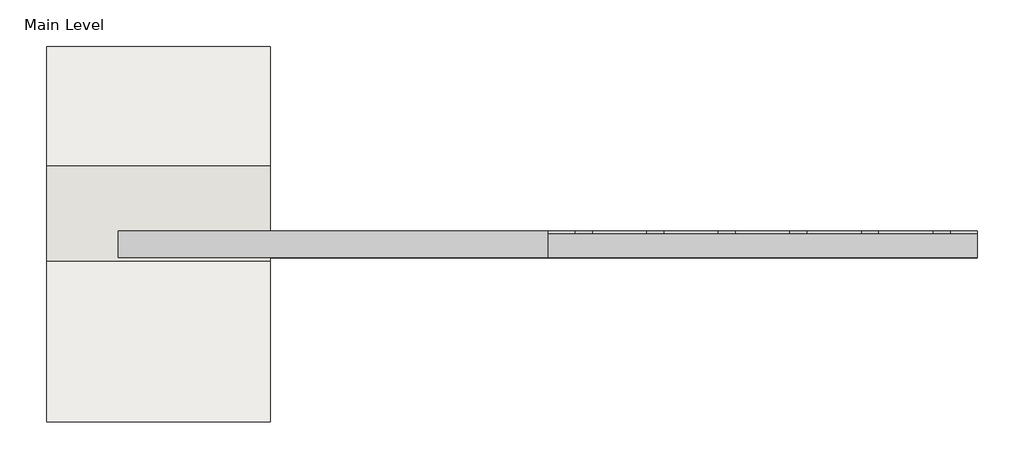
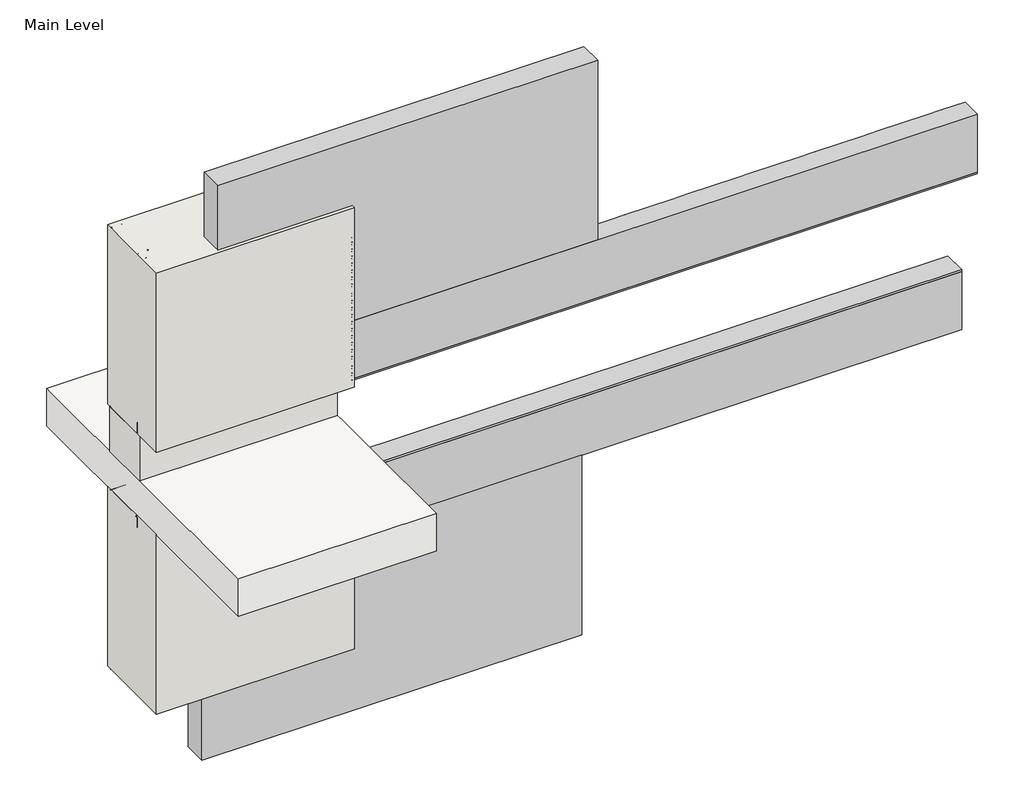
# One storey, incomplete: 23 proxies, 3 walls, 1 slab.
"""IFC4 building model written with IfcOpenShell, lengths in millimetres."""

from ifc_helpers import new_model, si_unit, frame, origin, origin_with_axes, place, context, project, spatial, polyline, outline, extrude, transform, mapped, element, save
from components import generic_models_31547c53, generic_models_0bbfdc8f, generic_models_1e1ad44f, generic_models_7dd17a53, generic_models_441de798, generic_models_9d0e7a2a, generic_models_03ec6e0e, proxy_ba8d72b4, proxy_81afb05a, proxy_c85420ac, masonry_sill1_masonry_sill_ddc70cea, wood_blocking_45ac4bf3

model = new_model("IFC4")

# Units and contexts
model_context = context("Model", 3, world=origin())
ifc_project = project(units=[si_unit("LENGTHUNIT", "METRE", prefix="MILLI")], contexts=[model_context])

# Site, building, storey
site = spatial("IfcSite", under=ifc_project)
building = spatial("IfcBuilding", under=site)
storey = spatial("IfcBuildingStorey", under=building, Name="Main Level", Elevation=0.0)

# Proxies
placement = place(None, origin())
generic_models_shape = generic_models_31547c53(model_context)
element("IfcBuildingElementProxy", 1, Name="Durabond Generic Model Sealant Vent : Durabond Generic Model Sealant Vent", ObjectType="Durabond Generic Model Sealant Vent : Durabond Generic Model Sealant Vent", at=placement, inside=storey, context=model_context, shape_type="MappedRepresentation", body=[
    mapped(generic_models_shape, transform((26865.4101773, 546.8432813, 8.5594788), x_axis=(1.0, 0.0, 0.0), y_axis=(0.0, 0.08715574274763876, -0.9961946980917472), z_axis=(0.0, 0.9961946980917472, 0.08715574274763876))),
])
generic_models_2_shape = generic_models_0bbfdc8f(model_context)
generic_models_3_shape = generic_models_1e1ad44f(model_context)
generic_models_4_shape = generic_models_7dd17a53(model_context)
generic_models_5_shape = generic_models_441de798(model_context)
element("IfcBuildingElementProxy", 2, Name="CRAi Generic Model Mesh Piece Face Based : CRAi Generic Model Mesh Piece Face Based", ObjectType="CRAi Generic Model Mesh Piece Face Based : CRAi Generic Model Mesh Piece Face Based", at=placement, inside=storey, context=model_context, shape_type="MappedRepresentation", body=[
    mapped(generic_models_2_shape, transform((26933.6726773, 541.9066297, 261.6963215), x_axis=(-1.0, 0.0, 0.0), y_axis=(0.0, 0.0, -1.0), z_axis=(0.0, -1.0, 0.0))),
    mapped(generic_models_3_shape, transform((26933.6726773, 541.9066297, 261.6963215), x_axis=(-1.0, 0.0, 0.0), y_axis=(0.0, 0.0, -1.0), z_axis=(0.0, -1.0, 0.0))),
    mapped(generic_models_4_shape, transform((26933.6726773, 541.9066297, 261.6963215), x_axis=(-1.0, 0.0, 0.0), y_axis=(0.0, 0.0, -1.0), z_axis=(0.0, -1.0, 0.0))),
    mapped(generic_models_5_shape, transform((26933.6726773, 541.9066297, 261.6963215), x_axis=(-1.0, 0.0, 0.0), y_axis=(0.0, 0.0, -1.0), z_axis=(0.0, -1.0, 0.0))),
])
generic_models_6_shape = generic_models_9d0e7a2a(model_context)
element("IfcBuildingElementProxy", 3, Name="CRAi Generic Model Metal Stud Array : CRAi Generic Model Metal Stud Array", ObjectType="CRAi Generic Model Metal Stud Array : CRAi Generic Model Metal Stud Array", at=placement, inside=storey, context=model_context, shape_type="MappedRepresentation", body=[
    mapped(generic_models_6_shape, transform((26666.9726773, 719.7066297, 6.35), x_axis=(-1.0, 0.0, 0.0), y_axis=(0.0, -1.0, 0.0), z_axis=(0.0, 0.0, 1.0))),
])
element("IfcBuildingElementProxy", 4, Name="CRAi Generic Model Metal Stud Array : CRAi Generic Model Metal Stud Array", ObjectType="CRAi Generic Model Metal Stud Array : CRAi Generic Model Metal Stud Array", at=placement, inside=storey, context=model_context, shape_type="MappedRepresentation", body=[
    mapped(generic_models_6_shape, transform((26666.9726773, 719.7066297, -889.0), x_axis=(-1.0, 0.0, 0.0), y_axis=(0.0, -1.0, 0.0), z_axis=(0.0, 0.0, 1.0))),
])
generic_models_7_shape = generic_models_03ec6e0e(model_context)
element("IfcBuildingElementProxy", 5, Name="CRAi Generic Model Drywall Screw : CRAi Generic Model Drywall Screw", ObjectType="CRAi Generic Model Drywall Screw : CRAi Generic Model Drywall Screw", at=placement, inside=storey, context=model_context, shape_type="MappedRepresentation", body=[
    mapped(generic_models_7_shape, transform((26482.8226773, 627.6316297, 25.4), x_axis=(1.0, 0.0, 0.0), y_axis=(0.0, 0.0, 1.0), z_axis=(0.0, -1.0, 0.0))),
])
element("IfcBuildingElementProxy", 6, Name="CRAi Generic Model Drywall Screw : CRAi Generic Model Drywall Screw", ObjectType="CRAi Generic Model Drywall Screw : CRAi Generic Model Drywall Screw", at=placement, inside=storey, context=model_context, shape_type="MappedRepresentation", body=[
    mapped(generic_models_7_shape, transform((26482.8226773, 627.6316297, 215.9), x_axis=(1.0, 0.0, 0.0), y_axis=(0.0, 0.0, 1.0), z_axis=(0.0, -1.0, 0.0))),
])
element("IfcBuildingElementProxy", 7, Name="CRAi Generic Model Drywall Screw : CRAi Generic Model Drywall Screw", ObjectType="CRAi Generic Model Drywall Screw : CRAi Generic Model Drywall Screw", at=placement, inside=storey, context=model_context, shape_type="MappedRepresentation", body=[
    mapped(generic_models_7_shape, transform((26482.8226773, 627.6316297, 406.4), x_axis=(1.0, 0.0, 0.0), y_axis=(0.0, 0.0, 1.0), z_axis=(0.0, -1.0, 0.0))),
])
element("IfcBuildingElementProxy", 8, Name="CRAi Generic Model Drywall Screw : CRAi Generic Model Drywall Screw", ObjectType="CRAi Generic Model Drywall Screw : CRAi Generic Model Drywall Screw", at=placement, inside=storey, context=model_context, shape_type="MappedRepresentation", body=[
    mapped(generic_models_7_shape, transform((26482.8226773, 627.6316297, 596.9), x_axis=(1.0, 0.0, 0.0), y_axis=(0.0, 0.0, 1.0), z_axis=(0.0, -1.0, 0.0))),
])
element("IfcBuildingElementProxy", 9, Name="CRAi Generic Model Drywall Screw : CRAi Generic Model Drywall Screw", ObjectType="CRAi Generic Model Drywall Screw : CRAi Generic Model Drywall Screw", at=placement, inside=storey, context=model_context, shape_type="MappedRepresentation", body=[
    mapped(generic_models_7_shape, transform((26851.1226773, 627.6316297, 25.4), x_axis=(1.0, 0.0, 0.0), y_axis=(0.0, 0.0, 1.0), z_axis=(0.0, -1.0, 0.0))),
])
element("IfcBuildingElementProxy", 10, Name="CRAi Generic Model Drywall Screw : CRAi Generic Model Drywall Screw", ObjectType="CRAi Generic Model Drywall Screw : CRAi Generic Model Drywall Screw", at=placement, inside=storey, context=model_context, shape_type="MappedRepresentation", body=[
    mapped(generic_models_7_shape, transform((26851.1226773, 627.6316297, 215.9), x_axis=(1.0, 0.0, 0.0), y_axis=(0.0, 0.0, 1.0), z_axis=(0.0, -1.0, 0.0))),
])
element("IfcBuildingElementProxy", 11, Name="CRAi Generic Model Drywall Screw : CRAi Generic Model Drywall Screw", ObjectType="CRAi Generic Model Drywall Screw : CRAi Generic Model Drywall Screw", at=placement, inside=storey, context=model_context, shape_type="MappedRepresentation", body=[
    mapped(generic_models_7_shape, transform((26851.1226773, 627.6316297, 406.4), x_axis=(1.0, 0.0, 0.0), y_axis=(0.0, 0.0, 1.0), z_axis=(0.0, -1.0, 0.0))),
])
element("IfcBuildingElementProxy", 12, Name="CRAi Generic Model Drywall Screw : CRAi Generic Model Drywall Screw", ObjectType="CRAi Generic Model Drywall Screw : CRAi Generic Model Drywall Screw", at=placement, inside=storey, context=model_context, shape_type="MappedRepresentation", body=[
    mapped(generic_models_7_shape, transform((26851.1226773, 627.6316297, 596.9), x_axis=(1.0, 0.0, 0.0), y_axis=(0.0, 0.0, 1.0), z_axis=(0.0, -1.0, 0.0))),
])
element("IfcBuildingElementProxy", 13, Name="CRAi Generic Model Drywall Screw : CRAi Generic Model Drywall Screw", ObjectType="CRAi Generic Model Drywall Screw : CRAi Generic Model Drywall Screw", at=placement, inside=storey, context=model_context, shape_type="MappedRepresentation", body=[
    mapped(generic_models_7_shape, transform((26482.8226773, 627.6316297, -869.95), x_axis=(1.0, 0.0, 0.0), y_axis=(0.0, 0.0, 1.0), z_axis=(0.0, -1.0, 0.0))),
])
element("IfcBuildingElementProxy", 14, Name="CRAi Generic Model Drywall Screw : CRAi Generic Model Drywall Screw", ObjectType="CRAi Generic Model Drywall Screw : CRAi Generic Model Drywall Screw", at=placement, inside=storey, context=model_context, shape_type="MappedRepresentation", body=[
    mapped(generic_models_7_shape, transform((26482.8226773, 627.6316297, -679.45), x_axis=(1.0, 0.0, 0.0), y_axis=(0.0, 0.0, 1.0), z_axis=(0.0, -1.0, 0.0))),
])
element("IfcBuildingElementProxy", 15, Name="CRAi Generic Model Drywall Screw : CRAi Generic Model Drywall Screw", ObjectType="CRAi Generic Model Drywall Screw : CRAi Generic Model Drywall Screw", at=placement, inside=storey, context=model_context, shape_type="MappedRepresentation", body=[
    mapped(generic_models_7_shape, transform((26482.8226773, 627.6316297, -488.95), x_axis=(1.0, 0.0, 0.0), y_axis=(0.0, 0.0, 1.0), z_axis=(0.0, -1.0, 0.0))),
])
element("IfcBuildingElementProxy", 16, Name="CRAi Generic Model Drywall Screw : CRAi Generic Model Drywall Screw", ObjectType="CRAi Generic Model Drywall Screw : CRAi Generic Model Drywall Screw", at=placement, inside=storey, context=model_context, shape_type="MappedRepresentation", body=[
    mapped(generic_models_7_shape, transform((26482.8226773, 627.6316297, -298.45), x_axis=(1.0, 0.0, 0.0), y_axis=(0.0, 0.0, 1.0), z_axis=(0.0, -1.0, 0.0))),
])
proxy_shape = proxy_ba8d72b4(model_context)
element("IfcBuildingElementProxy", 17, Name="Durabond Generic Model Equalite Select Boundary Board : 3\"", ObjectType="Durabond Generic Model Equalite Select Boundary Board : 3\"", at=placement, inside=storey, context=model_context, shape_type="MappedRepresentation", body=[
    mapped(proxy_shape, transform((27835.3726773, 624.4566297, -393.7), x_axis=(-1.0, 0.0, 0.0), y_axis=(0.0, 0.0, -1.0), z_axis=(0.0, -1.0, 0.0))),
])
proxy_2_shape = proxy_81afb05a(model_context)
element("IfcBuildingElementProxy", 18, Name="Durabond Generic Model Equalite Insulation Board : 3\"", ObjectType="Durabond Generic Model Equalite Insulation Board : 3\"", at=placement, inside=storey, context=model_context, shape_type="MappedRepresentation", body=[
    mapped(proxy_2_shape, transform((27276.5726773, 624.4566297, 523.392643), x_axis=(1.0, 0.0, 0.0), y_axis=(0.0, 0.0, 1.0), z_axis=(0.0, -1.0, 0.0))),
])
element("IfcBuildingElementProxy", 19, Name="Durabond Generic Model Equalite Insulation Board : 3\"", ObjectType="Durabond Generic Model Equalite Insulation Board : 3\"", at=placement, inside=storey, context=model_context, shape_type="MappedRepresentation", body=[
    mapped(proxy_2_shape, transform((27225.7726773, 624.4566297, -800.1), x_axis=(1.0, 0.0, 0.0), y_axis=(0.0, 0.0, 1.0), z_axis=(0.0, -1.0, 0.0))),
])
proxy_3_shape = proxy_c85420ac(model_context)
element("IfcBuildingElementProxy", 20, Name="Durabond Generic Model Equalite Select Vent Board : 3\"", ObjectType="Durabond Generic Model Equalite Select Vent Board : 3\"", at=placement, inside=storey, context=model_context, shape_type="MappedRepresentation", body=[
    mapped(proxy_3_shape, transform((27886.1726773, 624.4566297, 116.992643), x_axis=(1.0, 0.0, 0.0), y_axis=(0.0, 0.0, 1.0), z_axis=(0.0, -1.0, 0.0))),
])
masonry_sill1_masonry_sill_shape = masonry_sill1_masonry_sill_ddc70cea(model_context)
element("IfcBuildingElementProxy", 21, Name="Masonry Sill1 : Masonry Sill", ObjectType="Masonry Sill1 : Masonry Sill", at=placement, inside=storey, context=model_context, shape_type="MappedRepresentation", body=[
    mapped(masonry_sill1_masonry_sill_shape, transform((0.0, 0.0, 0.0), x_axis=(1.0, 0.0, 0.0), y_axis=(0.0, 1.0, 0.0), z_axis=(0.0, 0.0, 1.0))),
])
wood_blocking_shape = wood_blocking_45ac4bf3(model_context)
element("IfcBuildingElementProxy", 22, Name="CRAi Generic Model Line Based Metal Framing Track : Wood Blocking", ObjectType="CRAi Generic Model Line Based Metal Framing Track : Wood Blocking", at=placement, inside=storey, context=model_context, shape_type="MappedRepresentation", body=[
    mapped(wood_blocking_shape, transform((26463.7726773, 643.5066297, 0.0), x_axis=(1.0, 0.0, 0.0), y_axis=(0.0, 1.0, 0.0), z_axis=(0.0, 0.0, 1.0))),
])
element("IfcBuildingElementProxy", 23, Name="CRAi Generic Model Line Based Metal Framing Track : Wood Blocking", ObjectType="CRAi Generic Model Line Based Metal Framing Track : Wood Blocking", at=placement, inside=storey, context=model_context, shape_type="MappedRepresentation", body=[
    mapped(wood_blocking_shape, transform((26463.7726773, 795.9066297, -279.4), x_axis=(1.0, 0.0, 0.0), y_axis=(0.0, -1.0, 0.0), z_axis=(0.0, 0.0, -1.0))),
])

# Slab
element("IfcSlab", 24, ObjectType="CRAi Concrete Floor - 5\"", at=placement, inside=storey, context=model_context, shape_type="SweptSolid", body=[
    extrude(outline(polyline([(27098.7726773, 81.5316297), (26463.7726773, 81.5316297), (26463.7726773, 1148.3316297), (27098.7726773, 1148.3316297), (27098.7726773, 81.5316297)])), frame((0.0, 0.0, -279.4), z_axis=(0.0, 0.0, 1.0), x_axis=(1.0, 0.0, 0.0)), (0.0, 0.0, 1.0), 127.0),
])

# Walls
element("IfcWall", 25, ObjectType="189mm (7.5”) EIFS Field Applied on Mtl. Stud Layer - 50mm Grooved Insulation Board Metal Stud Wall(AirStop) 2", at=placement, inside=storey, context=model_context, shape_type="SweptSolid", body=[
    extrude(outline(polyline([(27098.7726773, 538.7316297), (26463.7726773, 538.7316297), (26463.7726773, 808.6066297), (27098.7726773, 808.6066297), (27098.7726773, 538.7316297)])), origin_with_axes(), (0.0, 0.0, 1.0), 609.6),
])
element("IfcWall", 26, ObjectType="Durabond 6\" Concrete Wall", at=placement, inside=storey, context=model_context, shape_type="SweptSolid", body=[
    extrude(outline(polyline([(27098.7726773, 630.8066297), (26463.7726773, 630.8066297), (26463.7726773, 795.9066297), (27098.7726773, 795.9066297), (27098.7726773, 630.8066297)])), frame((0.0, 0.0, -152.4), z_axis=(0.0, 0.0, 1.0), x_axis=(1.0, 0.0, 0.0)), (0.0, 0.0, 1.0), 152.4),
])
element("IfcWall", 27, ObjectType="189mm (7.5”) EIFS Field Applied on Mtl. Stud Layer - 50mm Grooved Insulation Board Metal Stud Wall(AirStop) 2", at=placement, inside=storey, context=model_context, shape_type="SweptSolid", body=[
    extrude(outline(polyline([(27098.7726773, 538.7316297), (26463.7726773, 538.7316297), (26463.7726773, 808.6066297), (27098.7726773, 808.6066297), (27098.7726773, 538.7316297)])), frame((0.0, 0.0, -889.0), z_axis=(0.0, 0.0, 1.0), x_axis=(1.0, 0.0, 0.0)), (0.0, 0.0, 1.0), 609.6),
])

save(model, "model.ifc")
